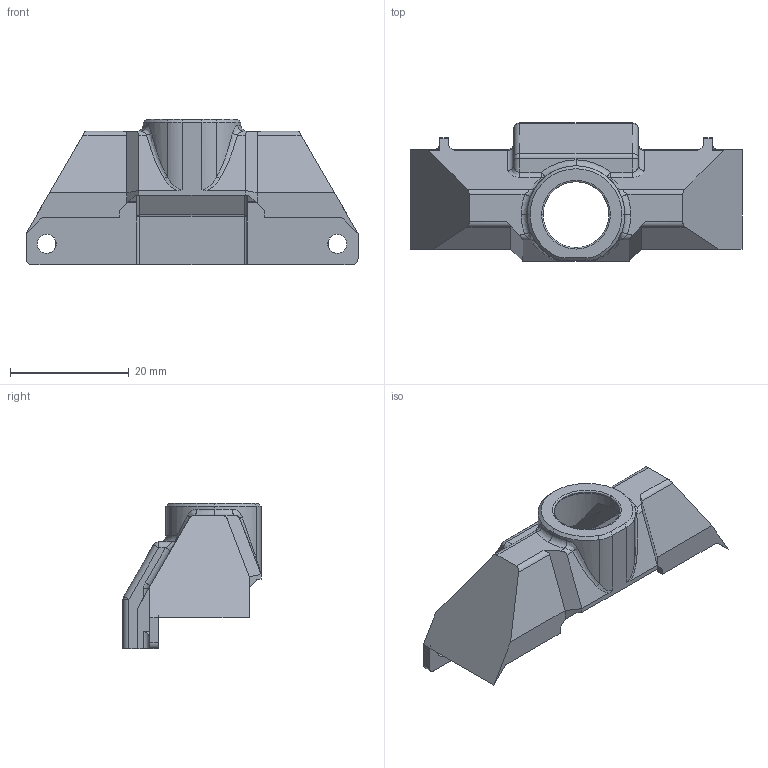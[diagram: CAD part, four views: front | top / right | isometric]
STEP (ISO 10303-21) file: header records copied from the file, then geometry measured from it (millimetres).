
FILE_DESCRIPTION (( 'STEP AP203' ), '1' );
FILE_NAME ('BR01_YAW_COVER_RevB.STEP');
FILE_SCHEMA (( 'CONFIG_CONTROL_DESIGN' ));
Length unit declared in the file: millimetre
Products named in the file (1): BR01_YAW_COVER_RevB
Bounding box: 56 x 23.3 x 24.5 mm (x, y, z)
Volume: 3317 mm3; surface area: 5530.3 mm2
Topology: 1 solids, 1 shells, 216 faces, 550 edges, 322 vertices
Faces by surface type: cylinder 85, plane 74, sphere 20, bspline 18, torus 14, cone 5
Entity records: 6763 total; most frequent: CARTESIAN_POINT 1724, ORIENTED_EDGE 1076, DIRECTION 1031, EDGE_CURVE 538, AXIS2_PLACEMENT_3D 377, VERTEX_POINT 322, LINE 277, VECTOR 277
